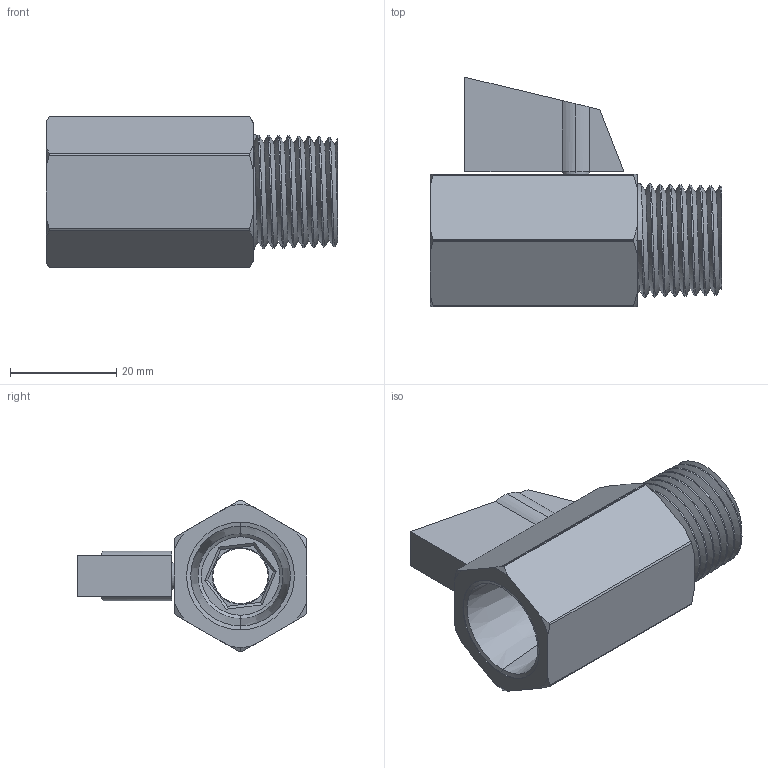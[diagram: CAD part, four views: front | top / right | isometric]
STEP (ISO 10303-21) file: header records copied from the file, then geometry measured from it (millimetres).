
FILE_DESCRIPTION (( 'STEP AP203' ), '1' );
FILE_NAME ('NB-M4.STEP', '2020-12-18T16:45:38', ( '' ), ( '' ), 'SwSTEP 2.0', 'SolidWorks 2017', '' );
FILE_SCHEMA (( 'CONFIG_CONTROL_DESIGN' ));
Length unit declared in the file: inch
Products named in the file (2): NB-M4
Bounding box: 54.86 x 43.24 x 28.57 mm (x, y, z)
Volume: 21053.5 mm3; surface area: 9699.5 mm2
Topology: 1 solids, 1 shells, 104 faces, 266 edges, 171 vertices
Faces by surface type: cone 42, plane 33, cylinder 20, bspline 5, torus 4
Entity records: 9046 total; most frequent: CARTESIAN_POINT 6472, ORIENTED_EDGE 530, DIRECTION 462, EDGE_CURVE 265, AXIS2_PLACEMENT_3D 170, VERTEX_POINT 169, VECTOR 122, LINE 122
